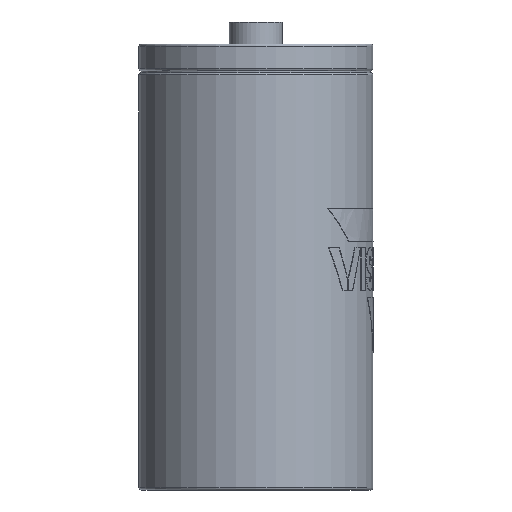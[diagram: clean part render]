
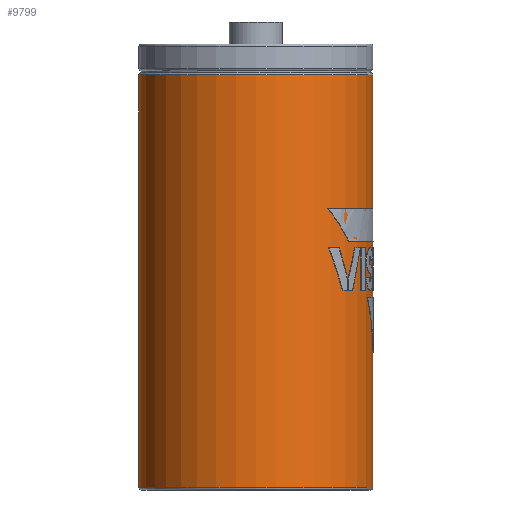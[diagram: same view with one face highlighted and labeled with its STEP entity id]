
A CAD part, left-side view. The second image highlights one B-rep face of the part: STEP entity #9799.
In plain terms, the highlighted cylindrical face has radius 38.2 mm (diameter 76.4 mm), a full revolution.
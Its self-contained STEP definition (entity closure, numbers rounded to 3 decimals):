
#9732 = TOROIDAL_SURFACE('',#9733,37.5,0.7);
#9733 = AXIS2_PLACEMENT_3D('',#9734,#9735,#9736);
#9734 = CARTESIAN_POINT('',(0.,0.,-144.4));
#9735 = DIRECTION('',(0.,0.,1.));
#9736 = DIRECTION('',(1.,0.,0.));
#9749 = VERTEX_POINT('',#9750);
#9750 = CARTESIAN_POINT('',(38.2,0.,-144.4));
#9772 = EDGE_CURVE('',#9749,#9749,#9773,.T.);
#9773 = SURFACE_CURVE('',#9774,(#9779,#9786),.PCURVE_S1.);
#9774 = CIRCLE('',#9775,38.2);
#9775 = AXIS2_PLACEMENT_3D('',#9776,#9777,#9778);
#9776 = CARTESIAN_POINT('',(0.,0.,-144.4));
#9777 = DIRECTION('',(-0.,0.,1.));
#9778 = DIRECTION('',(1.,0.,0.));
#9779 = PCURVE('',#9732,#9780);
#9780 = DEFINITIONAL_REPRESENTATION('',(#9781),#9785);
#9781 = LINE('',#9782,#9783);
#9782 = CARTESIAN_POINT('',(0.,6.283));
#9783 = VECTOR('',#9784,1.);
#9784 = DIRECTION('',(1.,0.));
#9785 = ( GEOMETRIC_REPRESENTATION_CONTEXT(2) 
PARAMETRIC_REPRESENTATION_CONTEXT() REPRESENTATION_CONTEXT('2D SPACE',''
  ) );
#9786 = PCURVE('',#9787,#9792);
#9787 = CYLINDRICAL_SURFACE('',#9788,38.2);
#9788 = AXIS2_PLACEMENT_3D('',#9789,#9790,#9791);
#9789 = CARTESIAN_POINT('',(0.,0.,-144.4));
#9790 = DIRECTION('',(0.,0.,1.));
#9791 = DIRECTION('',(1.,0.,0.));
#9792 = DEFINITIONAL_REPRESENTATION('',(#9793),#9797);
#9793 = LINE('',#9794,#9795);
#9794 = CARTESIAN_POINT('',(0.,0.));
#9795 = VECTOR('',#9796,1.);
#9796 = DIRECTION('',(1.,0.));
#9797 = ( GEOMETRIC_REPRESENTATION_CONTEXT(2) 
PARAMETRIC_REPRESENTATION_CONTEXT() REPRESENTATION_CONTEXT('2D SPACE',''
  ) );
#9799 = ADVANCED_FACE('',(#9800),#9787,.T.);
#9800 = FACE_BOUND('',#9801,.T.);
#9801 = EDGE_LOOP('',(#9802,#9803,#9826,#9853));
#9802 = ORIENTED_EDGE('',*,*,#9772,.T.);
#9803 = ORIENTED_EDGE('',*,*,#9804,.T.);
#9804 = EDGE_CURVE('',#9749,#9805,#9807,.T.);
#9805 = VERTEX_POINT('',#9806);
#9806 = CARTESIAN_POINT('',(38.2,0.,-9.4));
#9807 = SEAM_CURVE('',#9808,(#9812,#9819),.PCURVE_S1.);
#9808 = LINE('',#9809,#9810);
#9809 = CARTESIAN_POINT('',(38.2,0.,-144.4));
#9810 = VECTOR('',#9811,1.);
#9811 = DIRECTION('',(0.,0.,1.));
#9812 = PCURVE('',#9787,#9813);
#9813 = DEFINITIONAL_REPRESENTATION('',(#9814),#9818);
#9814 = LINE('',#9815,#9816);
#9815 = CARTESIAN_POINT('',(0.,0.));
#9816 = VECTOR('',#9817,1.);
#9817 = DIRECTION('',(0.,1.));
#9818 = ( GEOMETRIC_REPRESENTATION_CONTEXT(2) 
PARAMETRIC_REPRESENTATION_CONTEXT() REPRESENTATION_CONTEXT('2D SPACE',''
  ) );
#9819 = PCURVE('',#9787,#9820);
#9820 = DEFINITIONAL_REPRESENTATION('',(#9821),#9825);
#9821 = LINE('',#9822,#9823);
#9822 = CARTESIAN_POINT('',(6.283,0.));
#9823 = VECTOR('',#9824,1.);
#9824 = DIRECTION('',(0.,1.));
#9825 = ( GEOMETRIC_REPRESENTATION_CONTEXT(2) 
PARAMETRIC_REPRESENTATION_CONTEXT() REPRESENTATION_CONTEXT('2D SPACE',''
  ) );
#9826 = ORIENTED_EDGE('',*,*,#9827,.F.);
#9827 = EDGE_CURVE('',#9805,#9805,#9828,.T.);
#9828 = SURFACE_CURVE('',#9829,(#9834,#9841),.PCURVE_S1.);
#9829 = CIRCLE('',#9830,38.2);
#9830 = AXIS2_PLACEMENT_3D('',#9831,#9832,#9833);
#9831 = CARTESIAN_POINT('',(0.,0.,-9.4));
#9832 = DIRECTION('',(-0.,0.,1.));
#9833 = DIRECTION('',(1.,0.,0.));
#9834 = PCURVE('',#9787,#9835);
#9835 = DEFINITIONAL_REPRESENTATION('',(#9836),#9840);
#9836 = LINE('',#9837,#9838);
#9837 = CARTESIAN_POINT('',(0.,135.));
#9838 = VECTOR('',#9839,1.);
#9839 = DIRECTION('',(1.,0.));
#9840 = ( GEOMETRIC_REPRESENTATION_CONTEXT(2) 
PARAMETRIC_REPRESENTATION_CONTEXT() REPRESENTATION_CONTEXT('2D SPACE',''
  ) );
#9841 = PCURVE('',#9842,#9847);
#9842 = TOROIDAL_SURFACE('',#9843,37.5,0.7);
#9843 = AXIS2_PLACEMENT_3D('',#9844,#9845,#9846);
#9844 = CARTESIAN_POINT('',(0.,0.,-9.4));
#9845 = DIRECTION('',(0.,0.,1.));
#9846 = DIRECTION('',(1.,0.,0.));
#9847 = DEFINITIONAL_REPRESENTATION('',(#9848),#9852);
#9848 = LINE('',#9849,#9850);
#9849 = CARTESIAN_POINT('',(0.,0.));
#9850 = VECTOR('',#9851,1.);
#9851 = DIRECTION('',(1.,0.));
#9852 = ( GEOMETRIC_REPRESENTATION_CONTEXT(2) 
PARAMETRIC_REPRESENTATION_CONTEXT() REPRESENTATION_CONTEXT('2D SPACE',''
  ) );
#9853 = ORIENTED_EDGE('',*,*,#9804,.F.);
